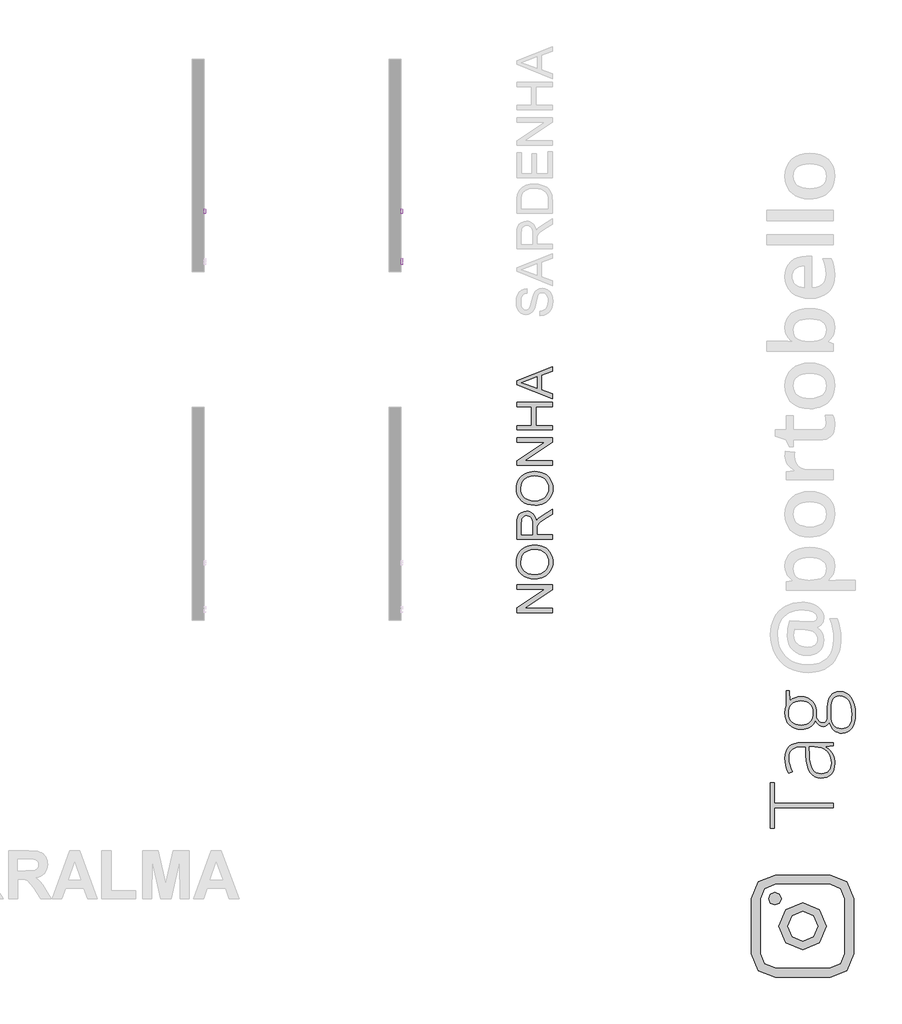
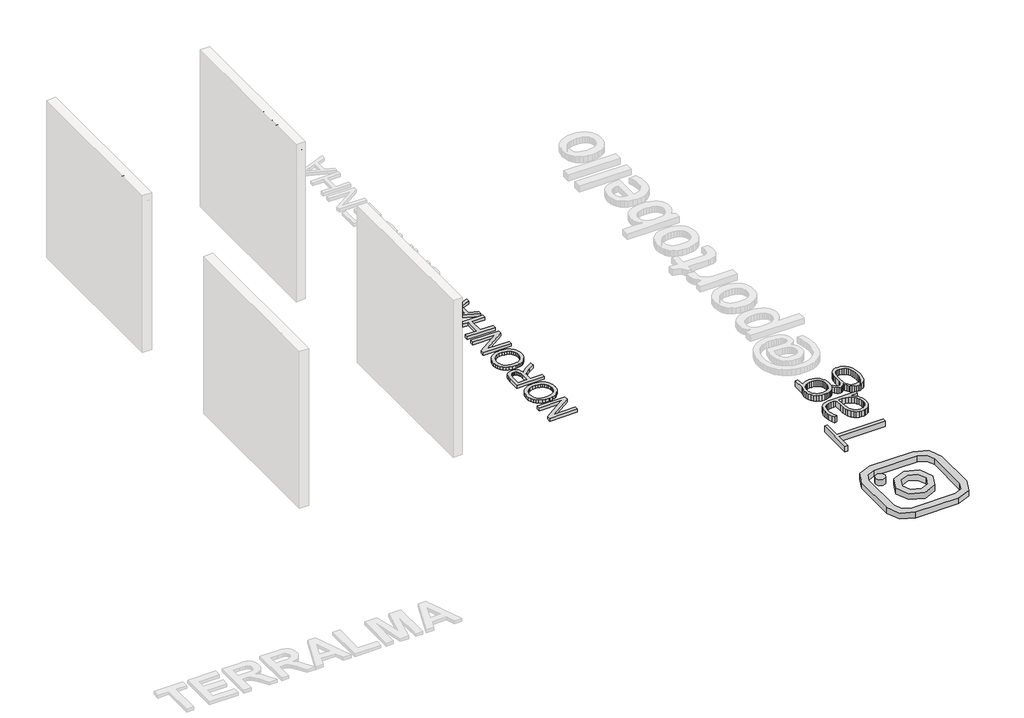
# One storey, part 5 of 11: 6 proxies.
"""IFC4 building model written with IfcOpenShell, lengths in millimetres."""

from ifc_helpers import new_model, si_unit, frame, origin, origin_with_axes, place, context, project, spatial, polyline, outline, extrude, transform, mapped, element, save
from components import generic_models_d67f6705

model = new_model("IFC4")

# Units and contexts
model_context = context("Model", 3, world=origin())
ifc_project = project(units=[si_unit("LENGTHUNIT", "METRE", prefix="MILLI")], contexts=[model_context])

# Site, building, storey
site = spatial("IfcSite", under=ifc_project)
building = spatial("IfcBuilding", under=site)
storey = spatial("IfcBuildingStorey", under=building, Name="PORTOBELLO - SHOWROOM", Elevation=0.0)

# Proxies
placement = place(None, origin())
generic_models_shape = generic_models_d67f6705(model_context)
element("IfcBuildingElementProxy", 1, Name="Blks_Instagram1 : Único 2", ObjectType="Blks_Instagram1 : Único 2", at=placement, inside=storey, context=model_context, shape_type="MappedRepresentation", body=[
    mapped(generic_models_shape, transform((-11681.1761359, -11161.2406298, 0.0), x_axis=(-1.0, 0.0, 0.0), y_axis=(0.0, -1.0, 0.0), z_axis=(0.0, 0.0, 1.0))),
])
element("IfcBuildingElementProxy", 2, Name="10mm Arial", ObjectType="10mm Arial", at=placement, inside=storey, context=model_context, shape_type="SweptSolid", body=[
    extrude(outline(polyline([(-2764.7598054, 2512.7580215), (-2752.2027666, 2512.7580215), (-2748.1560647, 2500.18872), (-2738.2723018, 2492.242469), (-2723.2136654, 2489.2135739), (-2710.0925409, 2491.506705), (-2701.6189923, 2497.8097498), (-2698.8353519, 2506.2342475), (-2700.9200165, 2514.070134), (-2709.4548788, 2519.7723049), (-2727.738614, 2524.5670336), (-2747.4203007, 2530.7597138), (-2758.1011413, 2540.1039165), (-2761.6205457, 2552.5873789), (-2757.2672754, 2566.7998866), (-2744.5508211, 2576.8308024), (-2725.9359922, 2580.2521049), (-2706.0703645, 2576.6713868), (-2692.8266126, 2566.1499618), (-2687.847943, 2550.4291379), (-2700.4049817, 2550.4291379), (-2702.7103756, 2557.9216678), (-2707.517367, 2563.3295332), (-2725.4454829, 2567.6950662), (-2743.4226497, 2563.3785841), (-2749.063507, 2552.9552609), (-2745.0658559, 2544.2487203), (-2724.5625661, 2537.234437), (-2702.3424936, 2530.9313921), (-2690.190125, 2520.7533236), (-2686.2783131, 2506.5530786), (-2690.7787362, 2491.5312304), (-2703.7281824, 2480.568347), (-2722.7231561, 2476.6565351), (-2745.1516951, 2480.8749153), (-2759.3396774, 2493.5791069), (-2764.7598054, 2512.7580215)])), frame((-16783.2092306, 0.0, 0.0), z_axis=(1.0, 0.0, 0.0), x_axis=(0.0, 1.0, 0.0)), (0.0, 0.0, 1.0), 20.0),
    extrude(outline(polyline([(-2621.9234894, 2487.643944), (-2634.1003835, 2479.1336072), (-2647.5526018, 2476.6565351), (-2658.0464357, 2478.1464572), (-2665.787286, 2482.6162234), (-2670.5605549, 2489.4036462), (-2672.1516445, 2497.846538), (-2669.7481488, 2507.7793519), (-2663.4328412, 2514.989839), (-2654.6404615, 2519.1101173), (-2643.7756799, 2520.9985782), (-2621.9970658, 2525.3150603), (-2621.9234894, 2528.1109635), (-2625.3815802, 2537.3815898), (-2639.2629941, 2541.0113588), (-2651.9671857, 2538.5956003), (-2658.0249759, 2530.0239499), (-2670.5820147, 2531.5935797), (-2665.1496239, 2543.8563129), (-2654.2112659, 2551.0422745), (-2637.6443134, 2553.5683975), (-2622.4262615, 2551.3365801), (-2613.8300855, 2545.732511), (-2609.9795873, 2537.2099115), (-2609.3664507, 2526.2225026), (-2609.3664507, 2510.5997805), (-2608.7287885, 2488.7843782), (-2606.227191, 2478.2261649), (-2618.7842297, 2478.2261649), (-2621.9234894, 2487.643944)]), holes=[polyline([(-2621.9234894, 2512.7580215), (-2642.1815246, 2508.9075233), (-2652.9849925, 2506.8719096), (-2657.8778231, 2503.5609717), (-2659.5946057, 2498.7294548), (-2655.8544721, 2491.9359006), (-2644.8793259, 2489.2135739), (-2632.1751344, 2492.2179435), (-2623.9836286, 2499.4897443), (-2621.9970658, 2509.2018289), (-2621.9234894, 2512.7580215)])]), frame((-16783.2092306, 0.0, 0.0), z_axis=(1.0, 0.0, 0.0), x_axis=(0.0, 1.0, 0.0)), (0.0, 0.0, 1.0), 20.0),
    extrude(outline(polyline([(-2592.1005223, 2478.2261649), (-2592.1005223, 2551.9987677), (-2581.1131134, 2551.9987677), (-2581.1131134, 2541.0849352), (-2573.3140151, 2551.1403764), (-2565.4658659, 2553.5683975), (-2552.8597762, 2549.6933739), (-2557.0536309, 2538.4361848), (-2565.8827988, 2541.0113588), (-2572.9829213, 2538.5342867), (-2577.5078699, 2531.6671561), (-2579.5434836, 2517.0009272), (-2579.5434836, 2478.2261649), (-2592.1005223, 2478.2261649)])), frame((-16783.2092306, 0.0, 0.0), z_axis=(1.0, 0.0, 0.0), x_axis=(0.0, 1.0, 0.0)), (0.0, 0.0, 1.0), 20.0),
    extrude(outline(polyline([(-2499.4923614, 2478.2261649), (-2499.4923614, 2490.0719652), (-2507.8003632, 2480.0103926), (-2519.2844128, 2476.6565351), (-2534.8335584, 2481.5125774), (-2545.8209674, 2495.0628976), (-2549.7205165, 2515.0388899), (-2546.1275357, 2535.027145), (-2535.360856, 2548.7859316), (-2519.3334637, 2553.5683975), (-2507.7574436, 2550.147095), (-2499.4923614, 2541.2566134), (-2499.4923614, 2578.6824751), (-2486.9353227, 2578.6824751), (-2486.9353227, 2478.2261649), (-2499.4923614, 2478.2261649)]), holes=[polyline([(-2537.1634777, 2515.0879409), (-2535.7471321, 2503.7295842), (-2531.498095, 2495.6515088), (-2525.3238089, 2490.8230576), (-2518.1317159, 2489.2135739), (-2510.9426885, 2490.7494812), (-2504.9247522, 2495.3572032), (-2500.8504591, 2503.122579), (-2499.4923614, 2514.1314477), (-2500.8749846, 2526.1673203), (-2505.0228541, 2534.5121102), (-2511.1940746, 2539.3865466), (-2518.6467506, 2541.0113588), (-2525.91242, 2539.450926), (-2531.865977, 2534.7696276), (-2535.8391026, 2526.7283403), (-2537.1634777, 2515.0879409)])]), frame((-16783.2092306, 0.0, 0.0), z_axis=(1.0, 0.0, 0.0), x_axis=(0.0, 1.0, 0.0)), (0.0, 0.0, 1.0), 20.0),
    extrude(outline(polyline([(-2416.4491324, 2500.2009828), (-2404.1373483, 2498.6313529), (-2408.573392, 2489.3545953), (-2415.6520547, 2482.4200197), (-2425.2139209, 2478.0974062), (-2437.099575, 2476.6565351), (-2451.833249, 2479.1428042), (-2463.1701458, 2486.6016117), (-2470.399027, 2498.5485795), (-2472.808654, 2514.4993297), (-2470.3745015, 2530.9865744), (-2463.0720439, 2543.3167526), (-2451.8884313, 2551.0054863), (-2437.8108136, 2553.5683975), (-2424.1715886, 2551.0116177), (-2413.2730845, 2543.3412781), (-2406.1269767, 2531.0356253), (-2403.7449408, 2514.5729061), (-2403.8185172, 2511.1883917), (-2460.2516153, 2511.1883917), (-2458.0780458, 2501.7890067), (-2453.0288654, 2494.8789566), (-2445.7417362, 2490.6299195), (-2436.8543204, 2489.2135739), (-2424.5425363, 2491.8377988), (-2416.4491324, 2500.2009828)]), holes=[polyline([(-2460.2516153, 2523.7454305), (-2416.3019796, 2523.7454305), (-2421.3297002, 2535.1252469), (-2428.6505519, 2539.5398308), (-2437.8598645, 2541.0113588), (-2453.323171, 2536.314732), (-2458.1884104, 2530.8240932), (-2460.2516153, 2523.7454305)])]), frame((-16783.2092306, 0.0, 0.0), z_axis=(1.0, 0.0, 0.0), x_axis=(0.0, 1.0, 0.0)), (0.0, 0.0, 1.0), 20.0),
    extrude(outline(polyline([(-2391.187902, 2478.2261649), (-2391.187902, 2551.9987677), (-2378.6308633, 2551.9987677), (-2378.6308633, 2541.6980718), (-2369.0291432, 2550.6008161), (-2355.9202814, 2553.5683975), (-2344.0622185, 2551.1771646), (-2335.9688146, 2544.8986452), (-2332.2041555, 2535.6648071), (-2331.5419679, 2523.5247013), (-2331.5419679, 2478.2261649), (-2344.0990067, 2478.2261649), (-2344.0990067, 2521.8324441), (-2345.5460092, 2532.9424804), (-2350.6595689, 2538.8163295), (-2359.2802703, 2541.0113588), (-2372.9041669, 2536.08174), (-2377.1991892, 2528.938698), (-2378.6308633, 2517.3688092), (-2378.6308633, 2478.2261649), (-2391.187902, 2478.2261649)])), frame((-16783.2092306, 0.0, 0.0), z_axis=(1.0, 0.0, 0.0), x_axis=(0.0, 1.0, 0.0)), (0.0, 0.0, 1.0), 20.0),
    extrude(outline(polyline([(-2314.2760396, 2478.2261649), (-2314.2760396, 2578.6824751), (-2301.7190008, 2578.6824751), (-2301.7190008, 2541.7471228), (-2291.9272084, 2550.6130789), (-2279.8668103, 2553.5683975), (-2265.7646672, 2550.3432987), (-2257.2052794, 2541.4282917), (-2254.6301054, 2524.9226529), (-2254.6301054, 2478.2261649), (-2267.1871442, 2478.2261649), (-2267.1871442, 2523.6228031), (-2271.1847952, 2536.866555), (-2282.5155607, 2541.0113588), (-2292.8039938, 2538.2154556), (-2299.6711244, 2530.6370865), (-2301.7190008, 2517.4178602), (-2301.7190008, 2478.2261649), (-2314.2760396, 2478.2261649)])), frame((-16783.2092306, 0.0, 0.0), z_axis=(1.0, 0.0, 0.0), x_axis=(0.0, 1.0, 0.0)), (0.0, 0.0, 1.0), 20.0),
    extrude(outline(polyline([(-2190.2752817, 2487.643944), (-2202.4521758, 2479.1336072), (-2215.9043941, 2476.6565351), (-2226.398228, 2478.1464572), (-2234.1390783, 2482.6162234), (-2238.9123472, 2489.4036462), (-2240.5034368, 2497.846538), (-2238.0999411, 2507.7793519), (-2231.7846335, 2514.989839), (-2222.9922539, 2519.1101173), (-2212.1274723, 2520.9985782), (-2190.3488581, 2525.3150603), (-2190.2752817, 2528.1109635), (-2193.7333725, 2537.3815898), (-2207.6147865, 2541.0113588), (-2220.318978, 2538.5956003), (-2226.3767682, 2530.0239499), (-2238.933807, 2531.5935797), (-2233.5014162, 2543.8563129), (-2222.5630582, 2551.0422745), (-2205.9961057, 2553.5683975), (-2190.7780538, 2551.3365801), (-2182.1818779, 2545.732511), (-2178.3313796, 2537.2099115), (-2177.718243, 2526.2225026), (-2177.718243, 2510.5997805), (-2177.0805809, 2488.7843782), (-2174.5789833, 2478.2261649), (-2187.1360221, 2478.2261649), (-2190.2752817, 2487.643944)]), holes=[polyline([(-2190.2752817, 2512.7580215), (-2210.533317, 2508.9075233), (-2221.3367849, 2506.8719096), (-2226.2296154, 2503.5609717), (-2227.9463981, 2498.7294548), (-2224.2062644, 2491.9359006), (-2213.2311182, 2489.2135739), (-2200.5269267, 2492.2179435), (-2192.3354209, 2499.4897443), (-2190.3488581, 2509.2018289), (-2190.2752817, 2512.7580215)])]), frame((-16783.2092306, 0.0, 0.0), z_axis=(1.0, 0.0, 0.0), x_axis=(0.0, 1.0, 0.0)), (0.0, 0.0, 1.0), 20.0),
])
element("IfcBuildingElementProxy", 3, Name="10mm Arial Narrow", ObjectType="10mm Arial Narrow", at=placement, inside=storey, context=model_context, shape_type="SweptSolid", body=[
    extrude(outline(polyline([(-2117.9158568, 2478.2261649), (-2117.9158568, 2578.9447687), (-2086.6189721, 2578.9447687), (-2070.3232706, 2577.066448), (-2058.8502844, 2567.5860048), (-2054.560606, 2550.566896), (-2056.3469144, 2538.4910704), (-2061.7058396, 2528.8646766), (-2071.4496284, 2522.5634182), (-2086.3905277, 2520.4629988), (-2108.1688951, 2520.4629988), (-2108.1688951, 2478.2261649), (-2117.9158568, 2478.2261649)]), holes=[polyline([(-2108.1688951, 2531.834454), (-2085.1975402, 2531.834454), (-2069.3333448, 2536.3652682), (-2064.3075677, 2550.033859), (-2066.7823821, 2560.1996354), (-2072.760011, 2565.9995852), (-2085.4259846, 2567.5733134), (-2108.1688951, 2567.5733134), (-2108.1688951, 2531.834454)])]), frame((-16783.2092306, 0.0, 0.0), z_axis=(1.0, 0.0, 0.0), x_axis=(0.0, 1.0, 0.0)), (0.0, 0.0, 1.0), 20.0),
    extrude(outline(polyline([(-2046.438138, 2514.7772711), (-2044.4836691, 2531.3680467), (-2038.6202625, 2543.3201315), (-2029.7616958, 2550.5446861), (-2018.8217466, 2552.9528709), (-2008.008711, 2550.5446861), (-1999.1247616, 2543.3201315), (-1993.1852068, 2531.558417), (-1991.2053553, 2515.5387525), (-1993.1503056, 2498.3768659), (-1998.9851567, 2486.2344108), (-2007.8342049, 2479.0098562), (-2018.8217466, 2476.6016713), (-2029.6823748, 2479.0162019), (-2038.5568057, 2486.2597935), (-2044.4678049, 2498.218224), (-2046.438138, 2514.7772711)]), holes=[polyline([(-2036.6911763, 2514.8026538), (-2035.3871394, 2502.2509024), (-2031.4750289, 2493.3796444), (-2025.6338321, 2488.1063858), (-2018.5425368, 2486.348633), (-2011.8224636, 2488.12225), (-2006.1303903, 2493.4431012), (-2002.2468353, 2502.3302234), (-2000.9523169, 2514.8026538), (-2002.2563538, 2527.3163312), (-2006.1684644, 2536.1748979), (-2012.0096611, 2541.4481564), (-2019.1009565, 2543.2059093), (-2025.8686222, 2541.4386379), (-2031.551177, 2536.1368238), (-2035.4061765, 2527.2687386), (-2036.6911763, 2514.8026538)])]), frame((-16783.2092306, 0.0, 0.0), z_axis=(1.0, 0.0, 0.0), x_axis=(0.0, 1.0, 0.0)), (0.0, 0.0, 1.0), 20.0),
    extrude(outline(polyline([(-1919.7276365, 2486.348633), (-1918.1031429, 2476.6016713), (-1925.4641295, 2476.6016713), (-1933.7388938, 2478.7211278), (-1938.053955, 2484.5210777), (-1939.2215598, 2499.1669029), (-1939.2215598, 2541.5814157), (-1947.3440278, 2541.5814157), (-1947.3440278, 2544.8304029), (-1948.9685214, 2539.9569221), (-1956.5325698, 2541.5814157), (-1962.6117295, 2539.2588975), (-1966.4825932, 2532.7736144), (-1968.4624447, 2517.3663078), (-1968.4624447, 2478.2261649), (-1978.2094064, 2478.2261649), (-1978.2094064, 2551.3283773), (-1968.4624447, 2551.3283773), (-1968.4624447, 2541.6321811), (-1962.2182974, 2550.7191922), (-1955.8218538, 2552.9528709), (-1947.3440278, 2551.3283773), (-1939.2215598, 2551.3283773), (-1939.2215598, 2567.5733134), (-1929.4745981, 2575.6957815), (-1929.4745981, 2551.3283773), (-1919.7276365, 2551.3283773), (-1919.7276365, 2541.5814157), (-1929.4745981, 2541.5814157), (-1929.4745981, 2496.9332241), (-1928.6115859, 2488.9376697), (-1923.9919322, 2486.348633), (-1919.7276365, 2486.348633)])), frame((-16783.2092306, 0.0, 0.0), z_axis=(1.0, 0.0, 0.0), x_axis=(0.0, 1.0, 0.0)), (0.0, 0.0, 1.0), 20.0),
    extrude(outline(polyline([(-1913.229662, 2514.7772711), (-1911.2751932, 2531.3680467), (-1905.4117865, 2543.3201315), (-1896.5532198, 2550.5446861), (-1885.6132707, 2552.9528709), (-1874.8002351, 2550.5446861), (-1865.9162857, 2543.3201315), (-1859.9767309, 2531.558417), (-1857.9968793, 2515.5387525), (-1859.9418297, 2498.3768659), (-1865.7766808, 2486.2344108), (-1874.6257289, 2479.0098562), (-1885.6132707, 2476.6016713), (-1896.4738989, 2479.0162019), (-1905.3483298, 2486.2597935), (-1911.259329, 2498.218224), (-1913.229662, 2514.7772711)]), holes=[polyline([(-1903.4827004, 2514.8026538), (-1902.1786635, 2502.2509024), (-1898.2665529, 2493.3796444), (-1892.4253562, 2488.1063858), (-1885.3340608, 2486.348633), (-1878.6139877, 2488.12225), (-1872.9219144, 2493.4431012), (-1869.0383593, 2502.3302234), (-1867.743841, 2514.8026538), (-1869.0478778, 2527.3163312), (-1872.9599884, 2536.1748979), (-1878.8011852, 2541.4481564), (-1885.8924805, 2543.2059093), (-1892.6601463, 2541.4386379), (-1898.3427011, 2536.1368238), (-1902.1977006, 2527.2687386), (-1903.4827004, 2514.8026538)])]), frame((-16783.2092306, 0.0, 0.0), z_axis=(1.0, 0.0, 0.0), x_axis=(0.0, 1.0, 0.0)), (0.0, 0.0, 1.0), 20.0),
    extrude(outline(polyline([(-1835.2539688, 2478.2261649), (-1845.0009305, 2478.2261649), (-1845.0009305, 2578.9447687), (-1835.2539688, 2578.9447687), (-1835.2539688, 2543.5358846), (-1827.8549081, 2550.6176614), (-1818.6536747, 2552.9528709), (-1805.7719481, 2548.752032), (-1796.4945666, 2536.0226016), (-1793.017135, 2515.3356908), (-1794.949394, 2498.8813473), (-1800.746171, 2486.6786082), (-1809.1192933, 2479.1209056), (-1818.7805883, 2476.6016713), (-1828.1214266, 2479.2160907), (-1835.2539688, 2486.9832008), (-1835.2539688, 2478.2261649)]), holes=[polyline([(-1835.2539688, 2515.3356908), (-1833.1725864, 2498.0881376), (-1827.283797, 2489.3564844), (-1818.8313537, 2486.348633), (-1812.8886261, 2488.1381142), (-1807.6502688, 2493.5065579), (-1802.7640966, 2514.9295674), (-1807.4725898, 2536.3652682), (-1812.7172928, 2541.495749), (-1819.0344154, 2543.2059093), (-1825.0120443, 2541.416428), (-1830.3043398, 2536.0479843), (-1835.2539688, 2515.3356908)])]), frame((-16783.2092306, 0.0, 0.0), z_axis=(1.0, 0.0, 0.0), x_axis=(0.0, 1.0, 0.0)), (0.0, 0.0, 1.0), 20.0),
    extrude(outline(polyline([(-1741.0333395, 2500.9690755), (-1731.2863778, 2499.3445819), (-1734.9859082, 2489.4580153), (-1740.8048951, 2482.3381644), (-1748.5085484, 2478.0357946), (-1757.862078, 2476.6016713), (-1769.455632, 2479.0162019), (-1778.5997542, 2486.2597935), (-1784.539309, 2498.0659277), (-1786.5191605, 2514.168086), (-1784.5297904, 2530.8350097), (-1778.5616801, 2543.0155389), (-1769.5476443, 2550.4685379), (-1758.4204976, 2552.9528709), (-1747.7375485, 2550.5542046), (-1738.9900311, 2543.3582056), (-1733.1551801, 2531.618701), (-1731.2102297, 2515.5895179), (-1731.2863778, 2512.3405307), (-1776.7721989, 2512.3405307), (-1770.7691873, 2492.8973728), (-1764.8391511, 2487.9858179), (-1757.7351644, 2486.348633), (-1747.5566966, 2490.0037436), (-1741.0333395, 2500.9690755)]), holes=[polyline([(-1776.1122484, 2522.0874924), (-1741.0333395, 2522.0874924), (-1745.2976352, 2536.3525769), (-1751.1229678, 2541.4925762), (-1758.3443495, 2543.2059093), (-1770.5534343, 2537.4947989), (-1776.1122484, 2522.0874924)])]), frame((-16783.2092306, 0.0, 0.0), z_axis=(1.0, 0.0, 0.0), x_axis=(0.0, 1.0, 0.0)), (0.0, 0.0, 1.0), 20.0),
    extrude(outline(polyline([(-16763.2092306, -1708.5434673), (-16763.2092306, -1718.290429), (-16783.2092306, -1718.290429), (-16783.2092306, -1708.5434673), (-16763.2092306, -1708.5434673)])), frame((0.0, 0.0, 2478.2261649), z_axis=(0.0, 0.0, 1.0), x_axis=(1.0, 0.0, 0.0)), (0.0, 0.0, 1.0), 100.7186038),
    extrude(outline(polyline([(-16763.2092306, -1682.5515696), (-16763.2092306, -1692.2985312), (-16783.2092306, -1692.2985312), (-16783.2092306, -1682.5515696), (-16763.2092306, -1682.5515696)])), frame((0.0, 0.0, 2478.2261649), z_axis=(0.0, 0.0, 1.0), x_axis=(1.0, 0.0, 0.0)), (0.0, 0.0, 1.0), 100.7186038),
    extrude(outline(polyline([(-1671.1801143, 2514.7772711), (-1669.2256454, 2531.3680467), (-1663.3622388, 2543.3201315), (-1654.5036721, 2550.5446861), (-1643.563723, 2552.9528709), (-1632.7506874, 2550.5446861), (-1623.8667379, 2543.3201315), (-1617.9271832, 2531.558417), (-1615.9473316, 2515.5387525), (-1617.892282, 2498.3768659), (-1623.727133, 2486.2344108), (-1632.5761812, 2479.0098562), (-1643.563723, 2476.6016713), (-1654.4243511, 2479.0162019), (-1663.298782, 2486.2597935), (-1669.2097812, 2498.218224), (-1671.1801143, 2514.7772711)]), holes=[polyline([(-1661.4331527, 2514.8026538), (-1660.1291158, 2502.2509024), (-1656.2170052, 2493.3796444), (-1650.3758085, 2488.1063858), (-1643.2845131, 2486.348633), (-1636.5644399, 2488.12225), (-1630.8723666, 2493.4431012), (-1626.9888116, 2502.3302234), (-1625.6942933, 2514.8026538), (-1626.9983301, 2527.3163312), (-1630.9104407, 2536.1748979), (-1636.7516374, 2541.4481564), (-1643.8429328, 2543.2059093), (-1650.6105985, 2541.4386379), (-1656.2931533, 2536.1368238), (-1660.1481528, 2527.2687386), (-1661.4331527, 2514.8026538)])]), frame((-16783.2092306, 0.0, 0.0), z_axis=(1.0, 0.0, 0.0), x_axis=(0.0, 1.0, 0.0)), (0.0, 0.0, 1.0), 20.0),
])
element("IfcBuildingElementProxy", 4, Name="10mm Arial Narrow", ObjectType="10mm Arial Narrow", at=placement, inside=storey, context=model_context, shape_type="SweptSolid", body=[
    extrude(outline(polyline([(-2117.9158568, 2478.2261649), (-2117.9158568, 2578.9447687), (-2086.6189721, 2578.9447687), (-2070.3232706, 2577.066448), (-2058.8502844, 2567.5860048), (-2054.560606, 2550.566896), (-2056.3469144, 2538.4910704), (-2061.7058396, 2528.8646766), (-2071.4496284, 2522.5634182), (-2086.3905277, 2520.4629988), (-2108.1688951, 2520.4629988), (-2108.1688951, 2478.2261649), (-2117.9158568, 2478.2261649)]), holes=[polyline([(-2108.1688951, 2531.834454), (-2085.1975402, 2531.834454), (-2069.3333448, 2536.3652682), (-2064.3075677, 2550.033859), (-2066.7823821, 2560.1996354), (-2072.760011, 2565.9995852), (-2085.4259846, 2567.5733134), (-2108.1688951, 2567.5733134), (-2108.1688951, 2531.834454)])]), frame((-19283.2092306, 0.0, 0.0), z_axis=(1.0, 0.0, 0.0), x_axis=(0.0, 1.0, 0.0)), (0.0, 0.0, 1.0), 20.0),
    extrude(outline(polyline([(-2046.438138, 2514.7772711), (-2044.4836691, 2531.3680467), (-2038.6202625, 2543.3201315), (-2029.7616958, 2550.5446861), (-2018.8217466, 2552.9528709), (-2008.008711, 2550.5446861), (-1999.1247616, 2543.3201315), (-1993.1852068, 2531.558417), (-1991.2053553, 2515.5387525), (-1993.1503056, 2498.3768659), (-1998.9851567, 2486.2344108), (-2007.8342049, 2479.0098562), (-2018.8217466, 2476.6016713), (-2029.6823748, 2479.0162019), (-2038.5568057, 2486.2597935), (-2044.4678049, 2498.218224), (-2046.438138, 2514.7772711)]), holes=[polyline([(-2036.6911763, 2514.8026538), (-2035.3871395, 2502.2509024), (-2031.4750289, 2493.3796444), (-2025.6338321, 2488.1063858), (-2018.5425368, 2486.348633), (-2011.8224636, 2488.12225), (-2006.1303903, 2493.4431012), (-2002.2468353, 2502.3302234), (-2000.9523169, 2514.8026538), (-2002.2563538, 2527.3163312), (-2006.1684644, 2536.1748979), (-2012.0096611, 2541.4481564), (-2019.1009565, 2543.2059093), (-2025.8686222, 2541.4386379), (-2031.551177, 2536.1368238), (-2035.4061765, 2527.2687386), (-2036.6911763, 2514.8026538)])]), frame((-19283.2092306, 0.0, 0.0), z_axis=(1.0, 0.0, 0.0), x_axis=(0.0, 1.0, 0.0)), (0.0, 0.0, 1.0), 20.0),
    extrude(outline(polyline([(-1919.7276365, 2486.348633), (-1918.1031429, 2476.6016713), (-1925.4641295, 2476.6016713), (-1933.7388938, 2478.7211278), (-1938.053955, 2484.5210777), (-1939.2215598, 2499.1669029), (-1939.2215598, 2541.5814157), (-1947.3440278, 2541.5814157), (-1947.3440278, 2544.8304029), (-1948.9685214, 2539.9569221), (-1956.5325698, 2541.5814157), (-1962.6117295, 2539.2588975), (-1966.4825932, 2532.7736144), (-1968.4624447, 2517.3663078), (-1968.4624447, 2478.2261649), (-1978.2094064, 2478.2261649), (-1978.2094064, 2551.3283773), (-1968.4624447, 2551.3283773), (-1968.4624447, 2541.6321811), (-1962.2182974, 2550.7191922), (-1955.8218538, 2552.9528709), (-1947.3440278, 2551.3283773), (-1939.2215598, 2551.3283773), (-1939.2215598, 2567.5733134), (-1929.4745981, 2575.6957815), (-1929.4745981, 2551.3283773), (-1919.7276365, 2551.3283773), (-1919.7276365, 2541.5814157), (-1929.4745981, 2541.5814157), (-1929.4745981, 2496.9332241), (-1928.6115859, 2488.9376697), (-1923.9919322, 2486.348633), (-1919.7276365, 2486.348633)])), frame((-19283.2092306, 0.0, 0.0), z_axis=(1.0, 0.0, 0.0), x_axis=(0.0, 1.0, 0.0)), (0.0, 0.0, 1.0), 20.0),
    extrude(outline(polyline([(-1913.229662, 2514.7772711), (-1911.2751932, 2531.3680467), (-1905.4117865, 2543.3201315), (-1896.5532198, 2550.5446861), (-1885.6132707, 2552.9528709), (-1874.8002351, 2550.5446861), (-1865.9162857, 2543.3201315), (-1859.9767309, 2531.558417), (-1857.9968793, 2515.5387525), (-1859.9418297, 2498.3768659), (-1865.7766808, 2486.2344108), (-1874.6257289, 2479.0098562), (-1885.6132707, 2476.6016713), (-1896.4738989, 2479.0162019), (-1905.3483298, 2486.2597935), (-1911.259329, 2498.218224), (-1913.229662, 2514.7772711)]), holes=[polyline([(-1903.4827004, 2514.8026538), (-1902.1786635, 2502.2509024), (-1898.2665529, 2493.3796444), (-1892.4253562, 2488.1063858), (-1885.3340608, 2486.348633), (-1878.6139877, 2488.12225), (-1872.9219144, 2493.4431012), (-1869.0383593, 2502.3302234), (-1867.743841, 2514.8026538), (-1869.0478778, 2527.3163312), (-1872.9599884, 2536.1748979), (-1878.8011852, 2541.4481564), (-1885.8924805, 2543.2059093), (-1892.6601463, 2541.4386379), (-1898.3427011, 2536.1368238), (-1902.1977006, 2527.2687386), (-1903.4827004, 2514.8026538)])]), frame((-19283.2092306, 0.0, 0.0), z_axis=(1.0, 0.0, 0.0), x_axis=(0.0, 1.0, 0.0)), (0.0, 0.0, 1.0), 20.0),
    extrude(outline(polyline([(-1835.2539688, 2478.2261649), (-1845.0009305, 2478.2261649), (-1845.0009305, 2578.9447687), (-1835.2539688, 2578.9447687), (-1835.2539688, 2543.5358846), (-1827.8549081, 2550.6176614), (-1818.6536747, 2552.9528709), (-1805.7719481, 2548.752032), (-1796.4945666, 2536.0226016), (-1793.017135, 2515.3356908), (-1794.949394, 2498.8813473), (-1800.746171, 2486.6786082), (-1809.1192933, 2479.1209056), (-1818.7805883, 2476.6016713), (-1828.1214266, 2479.2160907), (-1835.2539688, 2486.9832008), (-1835.2539688, 2478.2261649)]), holes=[polyline([(-1835.2539688, 2515.3356908), (-1833.1725864, 2498.0881376), (-1827.283797, 2489.3564844), (-1818.8313537, 2486.348633), (-1812.8886261, 2488.1381142), (-1807.6502688, 2493.5065579), (-1802.7640966, 2514.9295674), (-1807.4725898, 2536.3652682), (-1812.7172928, 2541.495749), (-1819.0344154, 2543.2059093), (-1825.0120443, 2541.416428), (-1830.3043398, 2536.0479843), (-1835.2539688, 2515.3356908)])]), frame((-19283.2092306, 0.0, 0.0), z_axis=(1.0, 0.0, 0.0), x_axis=(0.0, 1.0, 0.0)), (0.0, 0.0, 1.0), 20.0),
    extrude(outline(polyline([(-1741.0333395, 2500.9690755), (-1731.2863778, 2499.3445819), (-1734.9859082, 2489.4580153), (-1740.8048951, 2482.3381644), (-1748.5085484, 2478.0357946), (-1757.862078, 2476.6016713), (-1769.455632, 2479.0162019), (-1778.5997542, 2486.2597935), (-1784.539309, 2498.0659277), (-1786.5191605, 2514.168086), (-1784.5297904, 2530.8350097), (-1778.5616801, 2543.0155389), (-1769.5476443, 2550.4685379), (-1758.4204976, 2552.9528709), (-1747.7375485, 2550.5542046), (-1738.9900311, 2543.3582056), (-1733.1551801, 2531.618701), (-1731.2102297, 2515.5895179), (-1731.2863778, 2512.3405307), (-1776.7721989, 2512.3405307), (-1770.7691873, 2492.8973728), (-1764.8391511, 2487.9858179), (-1757.7351644, 2486.348633), (-1747.5566966, 2490.0037436), (-1741.0333395, 2500.9690755)]), holes=[polyline([(-1776.1122484, 2522.0874924), (-1741.0333395, 2522.0874924), (-1745.2976352, 2536.3525769), (-1751.1229678, 2541.4925762), (-1758.3443495, 2543.2059093), (-1770.5534343, 2537.4947989), (-1776.1122484, 2522.0874924)])]), frame((-19283.2092306, 0.0, 0.0), z_axis=(1.0, 0.0, 0.0), x_axis=(0.0, 1.0, 0.0)), (0.0, 0.0, 1.0), 20.0),
    extrude(outline(polyline([(-19263.2092306, -1708.5434673), (-19263.2092306, -1718.290429), (-19283.2092306, -1718.290429), (-19283.2092306, -1708.5434673), (-19263.2092306, -1708.5434673)])), frame((0.0, 0.0, 2478.2261649), z_axis=(0.0, 0.0, 1.0), x_axis=(1.0, 0.0, 0.0)), (0.0, 0.0, 1.0), 100.7186038),
    extrude(outline(polyline([(-19263.2092306, -1682.5515696), (-19263.2092306, -1692.2985312), (-19283.2092306, -1692.2985312), (-19283.2092306, -1682.5515696), (-19263.2092306, -1682.5515696)])), frame((0.0, 0.0, 2478.2261649), z_axis=(0.0, 0.0, 1.0), x_axis=(1.0, 0.0, 0.0)), (0.0, 0.0, 1.0), 100.7186038),
    extrude(outline(polyline([(-1671.1801143, 2514.7772711), (-1669.2256454, 2531.3680467), (-1663.3622388, 2543.3201315), (-1654.5036721, 2550.5446861), (-1643.563723, 2552.9528709), (-1632.7506874, 2550.5446861), (-1623.8667379, 2543.3201315), (-1617.9271832, 2531.558417), (-1615.9473316, 2515.5387525), (-1617.892282, 2498.3768659), (-1623.727133, 2486.2344108), (-1632.5761812, 2479.0098562), (-1643.563723, 2476.6016713), (-1654.4243511, 2479.0162019), (-1663.298782, 2486.2597935), (-1669.2097812, 2498.218224), (-1671.1801143, 2514.7772711)]), holes=[polyline([(-1661.4331527, 2514.8026538), (-1660.1291158, 2502.2509024), (-1656.2170052, 2493.3796444), (-1650.3758085, 2488.1063858), (-1643.2845131, 2486.348633), (-1636.5644399, 2488.12225), (-1630.8723666, 2493.4431012), (-1626.9888116, 2502.3302234), (-1625.6942933, 2514.8026538), (-1626.9983301, 2527.3163312), (-1630.9104407, 2536.1748979), (-1636.7516374, 2541.4481564), (-1643.8429328, 2543.2059093), (-1650.6105986, 2541.4386379), (-1656.2931533, 2536.1368238), (-1660.1481528, 2527.2687386), (-1661.4331527, 2514.8026538)])]), frame((-19283.2092306, 0.0, 0.0), z_axis=(1.0, 0.0, 0.0), x_axis=(0.0, 1.0, 0.0)), (0.0, 0.0, 1.0), 20.0),
])
element("IfcBuildingElementProxy", 5, Name="450mm Arial", ObjectType="450mm Arial", at=placement, inside=storey, context=model_context, shape_type="SweptSolid", body=[
    extrude(outline(polyline([(-14860.1829319, -7181.2290805), (-15309.8390747, -7181.2290805), (-15309.8390747, -7121.0700067), (-14953.6051432, -6886.1422368), (-15309.8390747, -6886.1422368), (-15309.8390747, -6829.9352189), (-14860.1829319, -6829.9352189), (-14860.1829319, -6890.0942927), (-15216.5266427, -7125.0220627), (-14860.1829319, -7125.0220627), (-14860.1829319, -7181.2290805)])), origin_with_axes(), (0.0, 0.0, 1.0), 50.0),
    extrude(outline(polyline([(-15079.0829194, -6752.6505694), (-15131.8250271, -6748.9043497), (-15178.5155491, -6737.6656906), (-15219.1544855, -6718.9345921), (-15253.7418362, -6692.7110543), (-15281.3581994, -6660.5662937), (-15301.084173, -6624.0715271), (-15312.9197572, -6583.2267545), (-15316.864952, -6538.0319758), (-15315.0124257, -6507.7809087), (-15309.4548471, -6479.0530299), (-15300.192216, -6451.8483392), (-15287.2245324, -6426.1668368), (-15270.9428853, -6402.7289495), (-15251.7383634, -6382.2551041), (-15229.6109669, -6364.7453007), (-15204.5606956, -6350.1995392), (-15177.1570299, -6338.7687663), (-15147.9694501, -6330.6039285), (-15116.9979561, -6325.7050258), (-15084.242548, -6324.0720583), (-15051.0548838, -6325.7907909), (-15019.6648561, -6330.9469889), (-14990.072465, -6339.5406522), (-14962.2777104, -6351.5717809), (-14937.0147417, -6366.7556347), (-14915.0177081, -6384.8074736), (-14896.2866096, -6405.7272975), (-14880.8214463, -6429.5151064), (-14868.718275, -6455.2343455), (-14860.0731526, -6481.9484597), (-14854.8860792, -6509.6574492), (-14853.1570547, -6538.3613138), (-14855.0679012, -6569.140694), (-14860.8004407, -6598.2459393), (-14870.3546731, -6625.6770498), (-14883.7305986, -6651.4340255), (-14900.4101958, -6674.844468), (-14919.8754435, -6695.2359789), (-14942.1263418, -6712.6085581), (-14967.1628907, -6726.9622058), (-14993.9799231, -6738.2008649), (-15021.572272, -6746.2284785), (-15049.9399374, -6751.0450467), (-15079.0829194, -6752.6505694)]), holes=[polyline([(-15078.5340227, -6696.4435515), (-15041.2708008, -6693.6338868), (-15008.1929159, -6685.2048925), (-14979.3003681, -6671.1565686), (-14954.5931572, -6651.4889152), (-14934.8054327, -6627.5810351), (-14920.6713437, -6600.8120312), (-14912.1908903, -6571.1819034), (-14909.3640725, -6538.6906518), (-14912.2183352, -6505.6436424), (-14920.781123, -6475.663593), (-14935.0524362, -6448.7505037), (-14955.0322745, -6424.9043745), (-14980.2609372, -6405.3808064), (-15010.2787232, -6391.4354007), (-15045.0856326, -6383.0681573), (-15084.6816653, -6380.2790761), (-15134.4391474, -6385.0544771), (-15177.4452006, -6399.3806798), (-15212.6157541, -6422.8871793), (-15238.8667368, -6455.20347), (-15255.2101348, -6494.1888552), (-15260.6579341, -6537.7026378), (-15258.033522, -6569.0652207), (-15250.1602855, -6598.1636048), (-15237.0382248, -6624.9977902), (-15218.6673397, -6649.5677769), (-15194.1625345, -6670.0759283), (-15162.6387133, -6684.7246079), (-15124.095876, -6693.5138156), (-15078.5340227, -6696.4435515)])]), origin_with_axes(), (0.0, 0.0, 1.0), 50.0),
    extrude(outline(polyline([(-14860.1829319, -6246.7874087), (-15309.8390747, -6246.7874087), (-15309.8390747, -6053.0268882), (-15306.8064207, -6000.9503177), (-15297.7084586, -5963.0627258), (-15280.9122208, -5935.3708894), (-15254.7847399, -5913.8815852), (-15222.3861146, -5900.0905567), (-15186.7764438, -5895.4935472), (-15163.6816169, -5897.3975324), (-15142.4804835, -5903.1094883), (-15123.1730435, -5912.6294147), (-15105.759297, -5925.9573117), (-15090.7950019, -5943.2647095), (-15078.8359159, -5964.7231382), (-15069.8820392, -5990.332598), (-15063.9333716, -6020.0930887), (-15039.891698, -5988.1473031), (-14982.0379901, -5942.5888805), (-14860.1829319, -5867.6095969), (-14860.1829319, -5932.9282993), (-14953.3855846, -5991.4406831), (-15015.081569, -6033.7057258), (-15033.071657, -6049.4178927), (-15044.2279816, -6063.4010351), (-15054.9314664, -6090.1323023), (-15056.9074944, -6122.7367639), (-15056.9074944, -6190.5803909), (-14860.1829319, -6190.5803909), (-14860.1829319, -6246.7874087)]), holes=[polyline([(-15113.1145122, -6190.5803909), (-15113.1145122, -6064.7732767), (-15115.1042626, -6028.6421541), (-15121.0735138, -6000.6072573), (-15131.4202158, -5979.5021808), (-15146.5423188, -5964.1605192), (-15164.8342999, -5954.8155535), (-15184.6906365, -5951.700565), (-15199.0648678, -5953.1860166), (-15212.1080246, -5957.6423713), (-15234.2011152, -5975.4677903), (-15242.7021522, -5989.0769969), (-15248.7743214, -6006.1373911), (-15253.6320569, -6050.6117429), (-15253.6320569, -6190.5803909), (-15113.1145122, -6190.5803909)])]), origin_with_axes(), (0.0, 0.0, 1.0), 50.0),
    extrude(outline(polyline([(-15079.0829194, -5818.2088976), (-15131.8250271, -5814.4626779), (-15178.5155491, -5803.2240188), (-15219.1544855, -5784.4929203), (-15253.7418362, -5758.2693825), (-15281.3581994, -5726.1246219), (-15301.084173, -5689.6298553), (-15312.9197572, -5648.7850827), (-15316.864952, -5603.590304), (-15315.0124257, -5573.3392369), (-15309.4548471, -5544.6113581), (-15300.192216, -5517.4066674), (-15287.2245324, -5491.725165), (-15270.9428853, -5468.2872777), (-15251.7383634, -5447.8134323), (-15229.6109669, -5430.3036289), (-15204.5606956, -5415.7578674), (-15177.1570299, -5404.3270945), (-15147.9694501, -5396.1622567), (-15116.9979561, -5391.263354), (-15084.242548, -5389.6303865), (-15051.0548838, -5391.3491191), (-15019.6648561, -5396.5053171), (-14990.072465, -5405.0989804), (-14962.2777104, -5417.1301091), (-14937.0147417, -5432.3139629), (-14915.0177081, -5450.3658018), (-14896.2866096, -5471.2856257), (-14880.8214463, -5495.0734346), (-14868.718275, -5520.7926737), (-14860.0731526, -5547.5067879), (-14854.8860792, -5575.2157774), (-14853.1570547, -5603.919642), (-14855.0679012, -5634.6990222), (-14860.8004407, -5663.8042675), (-14870.3546731, -5691.235378), (-14883.7305986, -5716.9923537), (-14900.4101958, -5740.4027962), (-14919.8754435, -5760.7943071), (-14942.1263418, -5778.1668864), (-14967.1628907, -5792.520534), (-14993.9799231, -5803.7591931), (-15021.572272, -5811.7868067), (-15049.9399374, -5816.6033749), (-15079.0829194, -5818.2088976)]), holes=[polyline([(-15078.5340227, -5762.0018798), (-15041.2708008, -5759.192215), (-15008.1929159, -5750.7632207), (-14979.3003681, -5736.7148968), (-14954.5931572, -5717.0472434), (-14934.8054327, -5693.1393633), (-14920.6713437, -5666.3703594), (-14912.1908903, -5636.7402316), (-14909.3640725, -5604.24898), (-14912.2183352, -5571.2019706), (-14920.781123, -5541.2219212), (-14935.0524362, -5514.3088319), (-14955.0322745, -5490.4627027), (-14980.2609372, -5470.9391347), (-15010.2787232, -5456.9937289), (-15045.0856326, -5448.6264855), (-15084.6816653, -5445.8374043), (-15134.4391474, -5450.6128053), (-15177.4452006, -5464.9390081), (-15212.6157541, -5488.4455075), (-15238.8667368, -5520.7617982), (-15255.2101348, -5559.7471834), (-15260.6579341, -5603.2609661), (-15258.033522, -5634.6235489), (-15250.1602855, -5663.721933), (-15237.0382248, -5690.5561184), (-15218.6673397, -5715.1261051), (-15194.1625345, -5735.6342565), (-15162.6387133, -5750.2829361), (-15124.095876, -5759.0721438), (-15078.5340227, -5762.0018798)])]), origin_with_axes(), (0.0, 0.0, 1.0), 50.0),
    extrude(outline(polyline([(-14860.1829319, -5312.3457369), (-15309.8390747, -5312.3457369), (-15309.8390747, -5252.1866631), (-14953.6051432, -5017.2588932), (-15309.8390747, -5017.2588932), (-15309.8390747, -4961.0518754), (-14860.1829319, -4961.0518754), (-14860.1829319, -5021.2109492), (-15216.5266427, -5256.1387191), (-14860.1829319, -5256.1387191), (-14860.1829319, -5312.3457369)])), origin_with_axes(), (0.0, 0.0, 1.0), 50.0),
    extrude(outline(polyline([(-14860.1829319, -4862.6895941), (-15309.8390747, -4862.6895941), (-15309.8390747, -4806.4825763), (-15127.1662667, -4806.4825763), (-15127.1662667, -4567.6027504), (-15309.8390747, -4567.6027504), (-15309.8390747, -4511.3957325), (-14860.1829319, -4511.3957325), (-14860.1829319, -4567.6027504), (-15070.9592489, -4567.6027504), (-15070.9592489, -4806.4825763), (-14860.1829319, -4806.4825763), (-14860.1829319, -4862.6895941)])), origin_with_axes(), (0.0, 0.0, 1.0), 50.0),
    extrude(outline(polyline([(-14860.1829319, -4465.3981925), (-15309.8390747, -4285.9089851), (-15309.8390747, -4238.0451965), (-14860.1829319, -4058.5559891), (-14860.1829319, -4117.9466076), (-15000.7004765, -4169.4331142), (-15000.7004765, -4354.6308468), (-14860.1829319, -4406.0075741), (-14860.1829319, -4465.3981925)]), holes=[polyline([(-15056.9074944, -4333.9923324), (-15056.9074944, -4189.9618492), (-15167.4552815, -4230.4704226), (-15253.6320569, -4261.9770908), (-15177.1158627, -4289.9708204), (-15056.9074944, -4333.9923324)])]), origin_with_axes(), (0.0, 0.0, 1.0), 50.0),
])
element("IfcBuildingElementProxy", 6, Name="80mm OpenSans Light", ObjectType="80mm OpenSans Light", at=placement, inside=storey, context=model_context, shape_type="SweptSolid", body=[
    extrude(outline(polyline([(-11289.4631512, -9599.7446899), (-11289.4631512, -9656.2308367), (-12043.2527519, -9656.2308367), (-12043.2527519, -9914.8652787), (-12089.4031356, -9914.8652787), (-12089.4031356, -9341.3506145), (-12043.2527519, -9341.3506145), (-12043.2527519, -9599.7446899), (-11289.4631512, -9599.7446899)])), origin_with_axes(), (0.0, 0.0, 1.0), 100.0),
    extrude(outline(polyline([(-11289.4631512, -8869.7513809), (-11385.1290508, -8883.4522761), (-11385.1290508, -8887.7788746), (-11356.9535806, -8910.6512571), (-11333.239915, -8933.8391208), (-11313.9880541, -8957.3424656), (-11299.1979978, -8981.1612916), (-11288.2087382, -9006.2270192), (-11280.359267, -9033.471069), (-11275.6495842, -9062.8934409), (-11274.07969, -9094.4941349), (-11276.9716004, -9136.3780118), (-11285.6473318, -9173.3343738), (-11300.106884, -9205.3632208), (-11320.350257, -9232.4645529), (-11345.7014199, -9254.0224307), (-11375.4843417, -9269.4209149), (-11409.6990224, -9278.6600054), (-11448.3454618, -9281.7397022), (-11490.5673542, -9277.1502028), (-11527.816663, -9263.3817045), (-11560.093388, -9240.4342074), (-11587.3975294, -9208.3077114), (-11609.2934227, -9167.4979727), (-11625.3454035, -9118.5007473), (-11635.5534718, -9061.3160352), (-11639.9176276, -8995.9438364), (-11643.2827597, -8881.2889769), (-11683.6643455, -8881.2889769), (-11724.2862978, -8883.467299), (-11759.6201853, -8890.0022654), (-11789.666008, -8900.8938762), (-11814.423766, -8916.1421312), (-11833.7732758, -8936.2427866), (-11847.5943543, -8961.6915985), (-11855.8870013, -8992.4885668), (-11858.651217, -9028.6336915), (-11855.766818, -9070.8330495), (-11847.1136211, -9113.7835531), (-11832.6916262, -9157.4852023), (-11812.5008333, -9201.937997), (-11859.6126834, -9222.3691565), (-11879.3828347, -9173.0038697), (-11893.5043714, -9123.9390412), (-11901.9772934, -9075.1746709), (-11904.8016007, -9026.7107589), (-11901.5641633, -8980.32752), (-11891.8518511, -8940.2088352), (-11875.6646641, -8906.3547045), (-11853.0026024, -8878.7651277), (-11823.490093, -8857.3649905), (-11786.7515632, -8842.0791782), (-11742.7870131, -8832.9076908), (-11691.5964427, -8829.8505283), (-11289.4631512, -8829.8505283), (-11289.4631512, -8869.7513809)]), holes=[polyline([(-11320.2300737, -9091.609736), (-11323.7980152, -9045.8499479), (-11334.5018395, -9005.1979498), (-11352.3415468, -8969.6537415), (-11377.3171369, -8939.2173231), (-11408.6323956, -8914.820115), (-11445.4911087, -8897.3935378), (-11487.893276, -8886.9375915), (-11535.8388976, -8883.4522761), (-11597.132376, -8883.4522761), (-11592.5654109, -8988.9732055), (-11587.6604304, -9047.9832014), (-11579.1950198, -9097.8592671), (-11567.1691793, -9138.6014027), (-11551.5829087, -9170.2096082), (-11531.8052459, -9193.8706936), (-11507.2052286, -9210.7714689), (-11477.7828567, -9220.9119341), (-11443.5381302, -9224.2920891), (-11415.9560649, -9222.1212784), (-11391.6189485, -9215.6088464), (-11370.526781, -9204.7547929), (-11352.6795623, -9189.5591181), (-11338.482911, -9170.4124175), (-11328.3424459, -9147.705287), (-11322.2581668, -9121.4377265), (-11320.2300737, -9091.609736)])]), origin_with_axes(), (0.0, 0.0, 1.0), 100.0),
    extrude(outline(polyline([(-11889.4181395, -8173.6497599), (-11850.9594864, -8173.6497599), (-11843.2677558, -8296.9578164), (-11811.1187255, -8275.2947782), (-11777.4073124, -8259.8211795), (-11742.1335165, -8250.5370203), (-11705.2973378, -8247.4423006), (-11662.7073841, -8251.0027306), (-11624.3538914, -8261.6840205), (-11590.2368597, -8279.4861705), (-11560.356289, -8304.4091805), (-11536.0642413, -8335.341355), (-11518.7127787, -8371.1709986), (-11508.3019011, -8411.8981113), (-11504.8316086, -8457.5226931), (-11508.1967407, -8514.0088398), (-11489.8988347, -8542.4021423), (-11468.656438, -8563.1638058), (-11445.2507421, -8575.8731888), (-11420.4629383, -8580.1096498), (-11396.1258219, -8574.7314476), (-11386.796594, -8568.0086947), (-11379.3602529, -8558.5968407), (-11369.6254063, -8529.7828967), (-11366.3804574, -8486.3666829), (-11366.3804574, -8382.5283196), (-11363.9167, -8337.1516158), (-11356.5254276, -8297.4085038), (-11344.2066403, -8263.2989835), (-11326.960338, -8234.823055), (-11304.8916812, -8212.371314), (-11278.1058303, -8196.3343561), (-11246.6027851, -8186.7121814), (-11210.3825458, -8183.5047898), (-11165.7269418, -8188.2670527), (-11126.4645629, -8202.5538414), (-11092.5954093, -8226.3651559), (-11064.1194808, -8259.7009962), (-11041.5625794, -8301.8252397), (-11025.4505069, -8352.0017637), (-11015.7832635, -8410.2305681), (-11012.560849, -8476.5116531), (-11015.3175532, -8529.3547438), (-11023.5876659, -8575.8731888), (-11037.3711871, -8616.0669882), (-11056.6681167, -8649.9361418), (-11080.8925613, -8676.8046188), (-11109.4586273, -8695.9963881), (-11142.3663146, -8707.5114496), (-11179.6156234, -8711.3498035), (-11209.6464232, -8708.9761835), (-11237.0031448, -8701.8553235), (-11261.6857881, -8689.9872235), (-11283.6943533, -8673.3718836), (-11302.728382, -8652.6853346), (-11318.487416, -8628.6036077), (-11330.9714553, -8601.1267028), (-11340.1805, -8570.25462), (-11353.580937, -8594.4715531), (-11371.6685222, -8613.2802381), (-11393.6019728, -8625.3586588), (-11418.5400057, -8629.3847991), (-11446.5276896, -8624.6225362), (-11472.8027615, -8610.3357475), (-11497.3652216, -8586.524433), (-11520.2150698, -8553.1885927), (-11532.9695216, -8577.8186558), (-11548.8787847, -8599.5492971), (-11567.9428592, -8618.3805165), (-11590.1617451, -8634.312314), (-11614.8293656, -8646.9841398), (-11641.2396438, -8656.0354439), (-11669.3925797, -8661.4662263), (-11699.2881733, -8663.2764871), (-11743.5006014, -8659.746103), (-11783.1160187, -8649.1549505), (-11818.1344251, -8631.5030296), (-11848.5558206, -8606.7903404), (-11873.1633494, -8576.0684867), (-11890.7401557, -8540.3890722), (-11901.2862395, -8499.7520969), (-11904.8016007, -8454.1575609), (-11900.9557354, -8402.2984709), (-11889.4181395, -8363.5393596), (-11889.4181395, -8173.6497599)]), holes=[polyline([(-11186.3458876, -8653.9021904), (-11156.4315154, -8651.0666159), (-11130.5057261, -8642.5598924), (-11108.5685198, -8628.3820198), (-11090.6198964, -8608.5329981), (-11076.659856, -8583.0128274), (-11066.6883986, -8551.8215077), (-11060.7055242, -8514.959039), (-11058.7112327, -8472.4254212), (-11061.1411886, -8417.7232452), (-11068.4310563, -8370.3146926), (-11080.5808359, -8330.1997635), (-11097.5905273, -8297.3784579), (-11119.4601305, -8271.8507758), (-11146.1896456, -8253.6167171), (-11177.7790724, -8242.6762819), (-11214.2284111, -8239.0294702), (-11240.1955134, -8241.3129527), (-11262.3317733, -8248.1634003), (-11280.6371908, -8259.5808129), (-11295.1117659, -8275.5651906), (-11306.1010256, -8296.6573582), (-11313.9504968, -8323.3981404), (-11318.6601795, -8355.7875373), (-11320.2300737, -8393.8255489), (-11320.2300737, -8490.933648), (-11318.1381333, -8529.1294001), (-11311.8623121, -8562.2323853), (-11301.4026101, -8590.2426035), (-11286.7590272, -8613.1600548), (-11267.9315635, -8630.9847392), (-11244.9202191, -8643.7166565), (-11217.7249938, -8651.355807), (-11186.3458876, -8653.9021904)]), polyline([(-11700.009273, -8608.2325399), (-11666.545738, -8605.6260648), (-11637.0632744, -8597.8066394), (-11611.5618824, -8584.7742638), (-11590.0415618, -8566.5289379), (-11572.9530002, -8543.9269678), (-11560.7468847, -8517.8246593), (-11553.4232154, -8488.2220125), (-11550.9819923, -8455.1190273), (-11553.4081925, -8420.2658729), (-11560.686793, -8389.739317), (-11572.8177939, -8363.5393596), (-11589.8011952, -8341.6660006), (-11611.3816074, -8324.4196984), (-11637.303641, -8312.1009111), (-11667.5672959, -8304.7096387), (-11702.1725723, -8302.2458812), (-11738.8960791, -8304.7847532), (-11770.7070939, -8312.4013693), (-11797.6056167, -8325.0957294), (-11819.5916475, -8342.8678336), (-11836.6802092, -8365.1918798), (-11848.8863246, -8391.5420664), (-11856.2099939, -8421.9183932), (-11858.651217, -8456.3208602), (-11856.029719, -8489.7768838), (-11848.1652249, -8519.4771796), (-11835.0577347, -8545.4217475), (-11816.7072485, -8567.6105876), (-11793.6846368, -8585.3826917), (-11766.5607704, -8598.0770518), (-11735.3356491, -8605.6936679), (-11700.009273, -8608.2325399)])]), origin_with_axes(), (0.0, 0.0, 1.0), 100.0),
])

save(model, "model.ifc")
